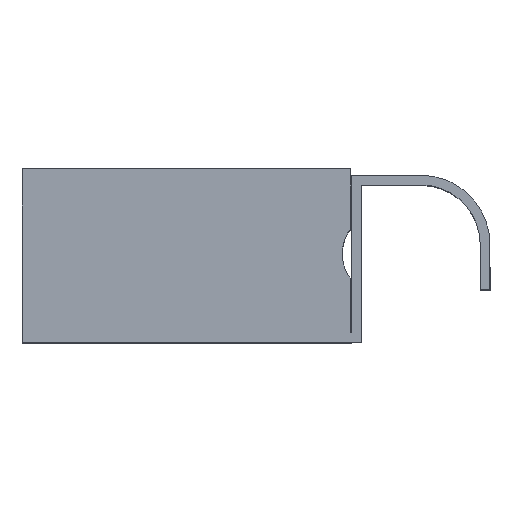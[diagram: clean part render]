
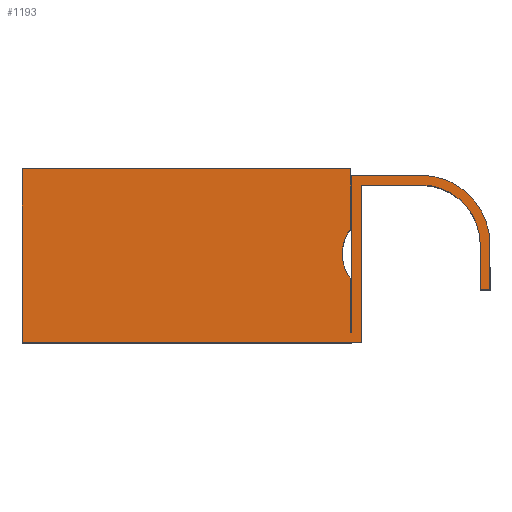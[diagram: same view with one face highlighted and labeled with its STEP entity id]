
A CAD part, top view. The second image highlights one B-rep face of the part: STEP entity #1193.
In plain terms, the highlighted planar face has unit normal (0, 0, 1).
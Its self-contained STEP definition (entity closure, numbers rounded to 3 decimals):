
#16 = DIRECTION ( 'NONE',  ( 1., 0., 0. ) ) ;
#24 = ORIENTED_EDGE ( 'NONE', *, *, #672, .F. ) ;
#28 = CARTESIAN_POINT ( 'NONE',  ( 16.3, -10.7, 46.7 ) ) ;
#38 = CARTESIAN_POINT ( 'NONE',  ( -16.3, 14., 46.7 ) ) ;
#55 = LINE ( 'NONE', #1680, #1652 ) ;
#67 = DIRECTION ( 'NONE',  ( 0., 1., 0. ) ) ;
#111 = CARTESIAN_POINT ( 'NONE',  ( -14., 14., 46.7 ) ) ;
#116 = DIRECTION ( 'NONE',  ( 1., 0., 0. ) ) ;
#125 = EDGE_CURVE ( 'NONE', #1632, #456, #414, .T. ) ;
#142 = CARTESIAN_POINT ( 'NONE',  ( -16.3, 16.3, 46.7 ) ) ;
#159 = VECTOR ( 'NONE', #1233, 1000. ) ;
#163 = DIRECTION ( 'NONE',  ( 1., 0., 0. ) ) ;
#175 = EDGE_CURVE ( 'NONE', #1328, #533, #317, .T. ) ;
#198 = VERTEX_POINT ( 'NONE', #1043 ) ;
#206 = CARTESIAN_POINT ( 'NONE',  ( 16.3, 0., 46.7 ) ) ;
#235 = ORIENTED_EDGE ( 'NONE', *, *, #1642, .F. ) ;
#244 = EDGE_CURVE ( 'NONE', #1651, #1632, #837, .T. ) ;
#260 = CARTESIAN_POINT ( 'NONE',  ( -16.5, -8.2, 46.7 ) ) ;
#270 = CARTESIAN_POINT ( 'NONE',  ( -94., -23.1, 46.7 ) ) ;
#277 = EDGE_CURVE ( 'NONE', #533, #1651, #1376, .T. ) ;
#283 = CARTESIAN_POINT ( 'NONE',  ( -16.3, -20.8, 46.7 ) ) ;
#317 = LINE ( 'NONE', #1670, #498 ) ;
#323 = EDGE_LOOP ( 'NONE', ( #1618, #235, #671, #1251, #1878, #819, #377, #771, #1492, #695, #1121, #1663, #24, #1507, #1266, #1735 ) ) ;
#343 = DIRECTION ( 'NONE',  ( -1., 0., 0. ) ) ;
#348 = EDGE_CURVE ( 'NONE', #1087, #1159, #745, .T. ) ;
#377 = ORIENTED_EDGE ( 'NONE', *, *, #277, .T. ) ;
#387 = CARTESIAN_POINT ( 'NONE',  ( -94., 17.8, 46.7 ) ) ;
#414 = LINE ( 'NONE', #1473, #1531 ) ;
#415 = DIRECTION ( 'NONE',  ( 0., 0., 1. ) ) ;
#419 = AXIS2_PLACEMENT_3D ( 'NONE', #1911, #415, #116 ) ;
#440 = DIRECTION ( 'NONE',  ( 1., 0., 0. ) ) ;
#456 = VERTEX_POINT ( 'NONE', #583 ) ;
#473 = CARTESIAN_POINT ( 'NONE',  ( 0., 0., 46.7 ) ) ;
#498 = VECTOR ( 'NONE', #1503, 1000. ) ;
#500 = VECTOR ( 'NONE', #16, 1000. ) ;
#511 = EDGE_CURVE ( 'NONE', #1206, #677, #740, .T. ) ;
#533 = VERTEX_POINT ( 'NONE', #111 ) ;
#537 = CARTESIAN_POINT ( 'NONE',  ( -16.5, 17.8, 46.7 ) ) ;
#548 = EDGE_CURVE ( 'NONE', #198, #1177, #1566, .T. ) ;
#579 = VECTOR ( 'NONE', #1203, 1000. ) ;
#583 = CARTESIAN_POINT ( 'NONE',  ( 14., -10.7, 46.7 ) ) ;
#586 = AXIS2_PLACEMENT_3D ( 'NONE', #983, #753, #163 ) ;
#608 = CARTESIAN_POINT ( 'NONE',  ( 16.3, -10.7, 46.7 ) ) ;
#620 = DIRECTION ( 'NONE',  ( 0., 0., -1. ) ) ;
#633 = LINE ( 'NONE', #206, #1360 ) ;
#671 = ORIENTED_EDGE ( 'NONE', *, *, #923, .T. ) ;
#672 = EDGE_CURVE ( 'NONE', #1748, #1087, #762, .T. ) ;
#677 = VERTEX_POINT ( 'NONE', #1679 ) ;
#695 = ORIENTED_EDGE ( 'NONE', *, *, #1753, .F. ) ;
#740 = LINE ( 'NONE', #283, #1719 ) ;
#745 = CIRCLE ( 'NONE', #586, 16.3 ) ;
#749 = DIRECTION ( 'NONE',  ( 0., 1., 0. ) ) ;
#753 = DIRECTION ( 'NONE',  ( 0., 0., -1. ) ) ;
#762 = LINE ( 'NONE', #1500, #159 ) ;
#770 = LINE ( 'NONE', #880, #1373 ) ;
#771 = ORIENTED_EDGE ( 'NONE', *, *, #244, .T. ) ;
#779 = VERTEX_POINT ( 'NONE', #1916 ) ;
#807 = VECTOR ( 'NONE', #749, 1000. ) ;
#814 = LINE ( 'NONE', #537, #1415 ) ;
#819 = ORIENTED_EDGE ( 'NONE', *, *, #175, .T. ) ;
#820 = VERTEX_POINT ( 'NONE', #270 ) ;
#837 = CIRCLE ( 'NONE', #1497, 14. ) ;
#869 = EDGE_CURVE ( 'NONE', #820, #1557, #1301, .T. ) ;
#880 = CARTESIAN_POINT ( 'NONE',  ( -16.3, 17.8, 46.7 ) ) ;
#923 = EDGE_CURVE ( 'NONE', #779, #1557, #770, .T. ) ;
#951 = DIRECTION ( 'NONE',  ( 0., -1., 0. ) ) ;
#983 = CARTESIAN_POINT ( 'NONE',  ( 0., 0., 46.7 ) ) ;
#1043 = CARTESIAN_POINT ( 'NONE',  ( -16.5, 3.8, 46.7 ) ) ;
#1073 = VECTOR ( 'NONE', #343, 1000. ) ;
#1087 = VERTEX_POINT ( 'NONE', #1092 ) ;
#1089 = EDGE_CURVE ( 'NONE', #1328, #820, #1567, .T. ) ;
#1092 = CARTESIAN_POINT ( 'NONE',  ( 0., 16.3, 46.7 ) ) ;
#1095 = EDGE_CURVE ( 'NONE', #1159, #1421, #633, .T. ) ;
#1121 = ORIENTED_EDGE ( 'NONE', *, *, #1095, .F. ) ;
#1159 = VERTEX_POINT ( 'NONE', #1874 ) ;
#1177 = VERTEX_POINT ( 'NONE', #260 ) ;
#1183 = DIRECTION ( 'NONE',  ( 1., 0., 0. ) ) ;
#1193 = ADVANCED_FACE ( 'NONE', ( #1434 ), #1454, .T. ) ;
#1203 = DIRECTION ( 'NONE',  ( -1., 0., 0. ) ) ;
#1206 = VERTEX_POINT ( 'NONE', #1580 ) ;
#1217 = AXIS2_PLACEMENT_3D ( 'NONE', #1323, #1314, #440 ) ;
#1233 = DIRECTION ( 'NONE',  ( 1., 0., 0. ) ) ;
#1251 = ORIENTED_EDGE ( 'NONE', *, *, #869, .F. ) ;
#1266 = ORIENTED_EDGE ( 'NONE', *, *, #511, .F. ) ;
#1301 = LINE ( 'NONE', #1751, #807 ) ;
#1314 = DIRECTION ( 'NONE',  ( 0., 0., 1. ) ) ;
#1323 = CARTESIAN_POINT ( 'NONE',  ( -8.5, -2.2, 46.7 ) ) ;
#1327 = CARTESIAN_POINT ( 'NONE',  ( -14., -23.1, 46.7 ) ) ;
#1328 = VERTEX_POINT ( 'NONE', #1327 ) ;
#1360 = VECTOR ( 'NONE', #1396, 1000. ) ;
#1369 = DIRECTION ( 'NONE',  ( -1., 0., 0. ) ) ;
#1372 = VECTOR ( 'NONE', #67, 1000. ) ;
#1373 = VECTOR ( 'NONE', #1369, 1000. ) ;
#1376 = LINE ( 'NONE', #38, #500 ) ;
#1396 = DIRECTION ( 'NONE',  ( 0., -1., 0. ) ) ;
#1415 = VECTOR ( 'NONE', #1872, 1000. ) ;
#1421 = VERTEX_POINT ( 'NONE', #28 ) ;
#1423 = CARTESIAN_POINT ( 'NONE',  ( 0., 14., 46.7 ) ) ;
#1434 = FACE_OUTER_BOUND ( 'NONE', #323, .T. ) ;
#1454 = PLANE ( 'NONE',  #419 ) ;
#1473 = CARTESIAN_POINT ( 'NONE',  ( 14., 0., 46.7 ) ) ;
#1478 = DIRECTION ( 'NONE',  ( 1., 0., 0. ) ) ;
#1492 = ORIENTED_EDGE ( 'NONE', *, *, #125, .T. ) ;
#1497 = AXIS2_PLACEMENT_3D ( 'NONE', #473, #620, #1183 ) ;
#1500 = CARTESIAN_POINT ( 'NONE',  ( -16.3, 16.3, 46.7 ) ) ;
#1503 = DIRECTION ( 'NONE',  ( 0., 1., 0. ) ) ;
#1507 = ORIENTED_EDGE ( 'NONE', *, *, #1821, .F. ) ;
#1531 = VECTOR ( 'NONE', #1586, 1000. ) ;
#1543 = CARTESIAN_POINT ( 'NONE',  ( -16.3, -23.1, 46.7 ) ) ;
#1557 = VERTEX_POINT ( 'NONE', #387 ) ;
#1566 = CIRCLE ( 'NONE', #1217, 10. ) ;
#1567 = LINE ( 'NONE', #1675, #1073 ) ;
#1580 = CARTESIAN_POINT ( 'NONE',  ( -16.5, -20.8, 46.7 ) ) ;
#1586 = DIRECTION ( 'NONE',  ( 0., -1., 0. ) ) ;
#1618 = ORIENTED_EDGE ( 'NONE', *, *, #548, .F. ) ;
#1632 = VERTEX_POINT ( 'NONE', #1888 ) ;
#1642 = EDGE_CURVE ( 'NONE', #779, #198, #814, .T. ) ;
#1651 = VERTEX_POINT ( 'NONE', #1423 ) ;
#1652 = VECTOR ( 'NONE', #951, 1000. ) ;
#1663 = ORIENTED_EDGE ( 'NONE', *, *, #348, .F. ) ;
#1670 = CARTESIAN_POINT ( 'NONE',  ( -14., -23.1, 46.7 ) ) ;
#1675 = CARTESIAN_POINT ( 'NONE',  ( -16.3, -23.1, 46.7 ) ) ;
#1679 = CARTESIAN_POINT ( 'NONE',  ( -16.3, -20.8, 46.7 ) ) ;
#1680 = CARTESIAN_POINT ( 'NONE',  ( -16.5, 17.8, 46.7 ) ) ;
#1692 = LINE ( 'NONE', #1543, #1372 ) ;
#1719 = VECTOR ( 'NONE', #1478, 1000. ) ;
#1735 = ORIENTED_EDGE ( 'NONE', *, *, #1867, .F. ) ;
#1748 = VERTEX_POINT ( 'NONE', #142 ) ;
#1751 = CARTESIAN_POINT ( 'NONE',  ( -94., -23.1, 46.7 ) ) ;
#1753 = EDGE_CURVE ( 'NONE', #1421, #456, #1764, .T. ) ;
#1764 = LINE ( 'NONE', #608, #579 ) ;
#1821 = EDGE_CURVE ( 'NONE', #677, #1748, #1692, .T. ) ;
#1867 = EDGE_CURVE ( 'NONE', #1177, #1206, #55, .T. ) ;
#1872 = DIRECTION ( 'NONE',  ( 0., -1., 0. ) ) ;
#1874 = CARTESIAN_POINT ( 'NONE',  ( 16.3, 0., 46.7 ) ) ;
#1878 = ORIENTED_EDGE ( 'NONE', *, *, #1089, .F. ) ;
#1888 = CARTESIAN_POINT ( 'NONE',  ( 14., 0., 46.7 ) ) ;
#1911 = CARTESIAN_POINT ( 'NONE',  ( -16.3, -23.1, 46.7 ) ) ;
#1916 = CARTESIAN_POINT ( 'NONE',  ( -16.5, 17.8, 46.7 ) ) ;
